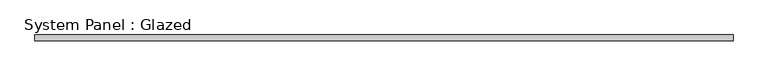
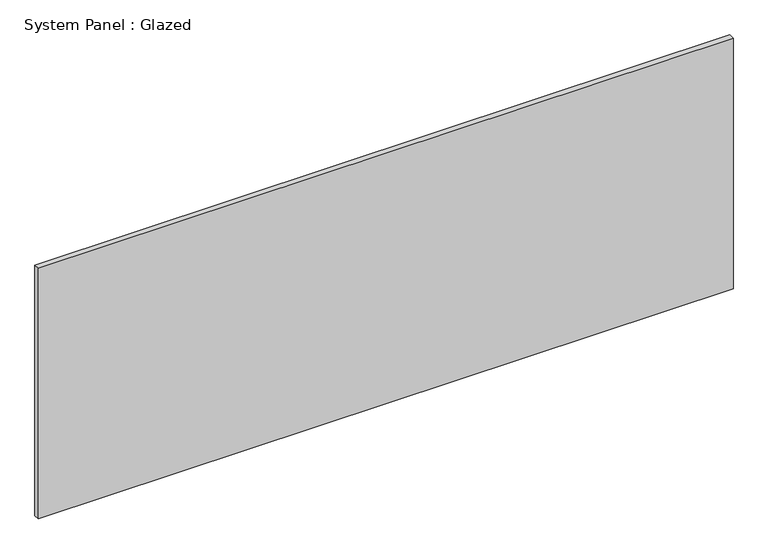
"""IFC4 building model written with IfcOpenShell, lengths in millimetres: plate geometry, System Panel : Glazed."""

from ifc_helpers import new_model, si_unit, origin, origin_with_axes, place, context, project, spatial, polyline, outline, extrude, source, transform, mapped, element, save


def system_panel_glazed_2dc425e2(model_context):
    return source(origin(), model_context, "Body", "SweptSolid", [
        extrude(outline(polyline([(1507.7197518, 24.5), (-1507.7197518, 24.5), (-1507.7197518, 49.5), (1507.7197518, 49.5), (1507.7197518, 24.5)])), origin_with_axes(), (0.0, 0.0, 1.0), 1150.0),
    ])


if __name__ == "__main__":
    model = new_model("IFC4")
    model_context = context("Model", 3, world=origin())
    ifc_project = project(units=[si_unit("LENGTHUNIT", "METRE", prefix="MILLI")], contexts=[model_context])
    site = spatial("IfcSite", under=ifc_project)
    building = spatial("IfcBuilding", under=site)
    placement = place(None, origin())
    system_panel_glazed_shape = system_panel_glazed_2dc425e2(model_context)
    element("IfcPlate", 1, ObjectType="System Panel : Glazed", at=placement, inside=building, context=model_context, shape_type="MappedRepresentation", body=[
        mapped(system_panel_glazed_shape, transform((0.0, 0.0, 0.0), x_axis=(1.0, 0.0, 0.0), y_axis=(0.0, 1.0, 0.0), z_axis=(0.0, 0.0, 1.0))),
    ])
    save(model, "model.ifc")
